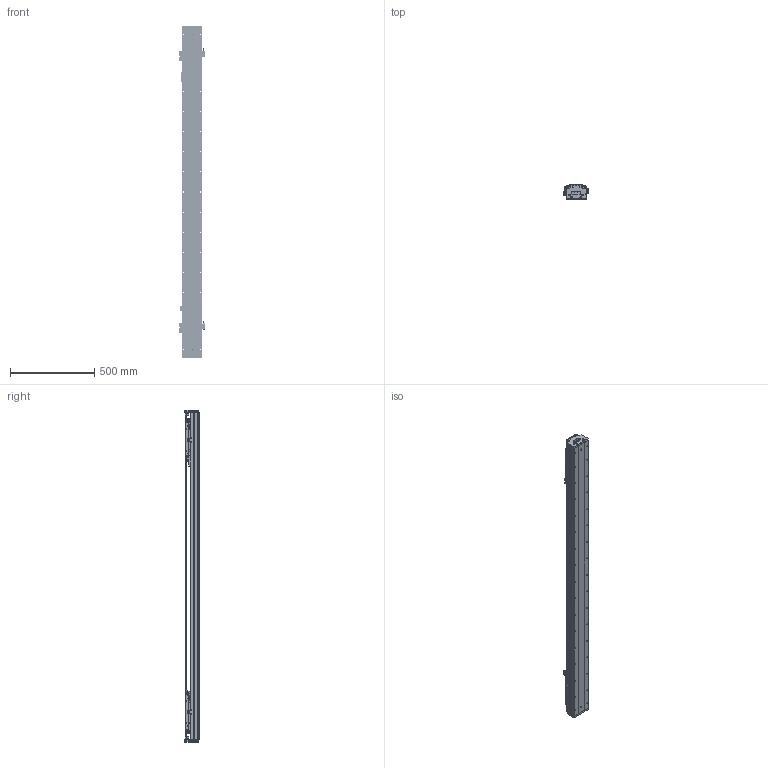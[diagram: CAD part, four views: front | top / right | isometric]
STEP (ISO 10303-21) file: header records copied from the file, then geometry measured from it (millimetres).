
FILE_DESCRIPTION (( 'STEP AP203' ), '1' );
FILE_NAME ('DKW120-2×B3-W060（T1340-L005-0.2）.STEP', '2021-09-28T08:32:39', ( '微软用户' ), ( '微软中国' ), 'SwSTEP 2.0', 'SolidWorks 2018', '' );
FILE_SCHEMA (( 'CONFIG_CONTROL_DESIGN' ));
Length unit declared in the file: millimetre
Products named in the file (22): DKW-SG-GYP-H-00 嫖萇覜茼え; 12160-0000-003-00 DKW120詩湍嶺輸; EE_SX674A; 12160-0000-004-00  DKW120詩湍揤輸; B3-W060_00; DKW120 单轴模组-拉钢带组件; DKW-DG-XJ-Z-00 笢潔滅袉砎蝶; BKMA01-W060-TRL280; 06652-0001-001-00 DKW120傷啣; DKW-GYP-ZJ-00 笢潔嫖萇覜茼え; RUS嫖掑喜; 06652-0001-004-00 DKW120嶺輸菜輸; DKW120-B15-T300-DZ-00 菁釱; DKW-KGZ-ZJ-00 中间光电开关支架; Ru2; DKW-HXJ-JY-00 遣喳砎蝶; MSB15-DG-U; DKW120-2×B3-W060（T1340-L005-0.2）; DKW119-RU-DTJ-00 RU2黍杅芛盓殤; 10940-0001-004-00 120詩湍裔啣; 10980-0001-003-00 嫖萇羲壽嘐隅釱; 砎蝶猾沭
Assembly tree (41 placements, depth 3):
  DKW120-2×B3-W060（T1340-L005-0.2）
    DKW120-B15-T300-DZ-00 菁釱
    MSB15-DG-U  x2
    DKW120 单轴模组-拉钢带组件
      06652-0001-001-00 DKW120傷啣  x2
      06652-0001-004-00 DKW120嶺輸菜輸  x4
      DKW-HXJ-JY-00 遣喳砎蝶  x4
      10940-0001-004-00 120詩湍裔啣
      砎蝶猾沭  x2
      12160-0000-003-00 DKW120詩湍嶺輸  x2
      12160-0000-004-00  DKW120詩湍揤輸  x2
    BKMA01-W060-TRL280
    RUS嫖掑喜
    Ru2  x2
    DKW119-RU-DTJ-00 RU2黍杅芛盓殤  x2
    10980-0001-003-00 嫖萇羲壽嘐隅釱  x2
    DKW-SG-GYP-H-00 嫖萇覜茼え  x2
    EE_SX674A  x5
    B3-W060_00  x2
    DKW-DG-XJ-Z-00 笢潔滅袉砎蝶
    DKW-GYP-ZJ-00 笢潔嫖萇覜茼え
    DKW-KGZ-ZJ-00 中间光电开关支架
Bounding box: 154.1 x 84 x 1976 mm (x, y, z)
Volume: 7872561.2 mm3; surface area: 2954645.7 mm2
Topology: 60 solids, 158 shells, 6556 faces, 17758 edges, 11427 vertices
Faces by surface type: plane 3586, cylinder 1956, cone 520, bspline 494
Entity records: 141710 total; most frequent: CARTESIAN_POINT 48570, ORIENTED_EDGE 19253, DIRECTION 17950, EDGE_CURVE 9667, VERTEX_POINT 6341, AXIS2_PLACEMENT_3D 6014, VECTOR 5922, LINE 5922
